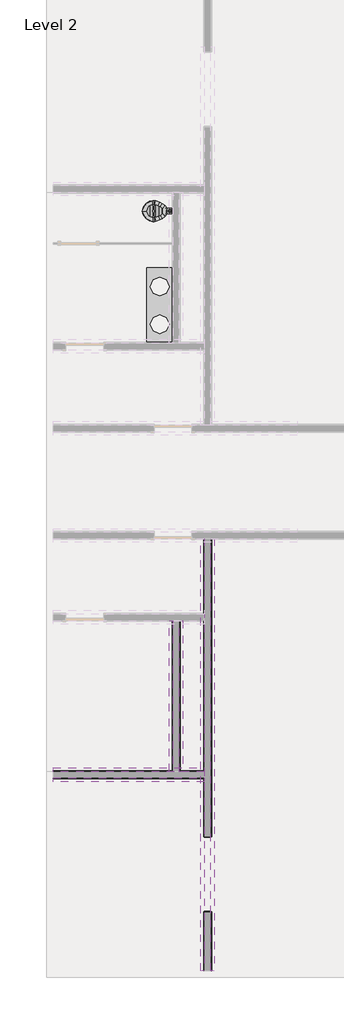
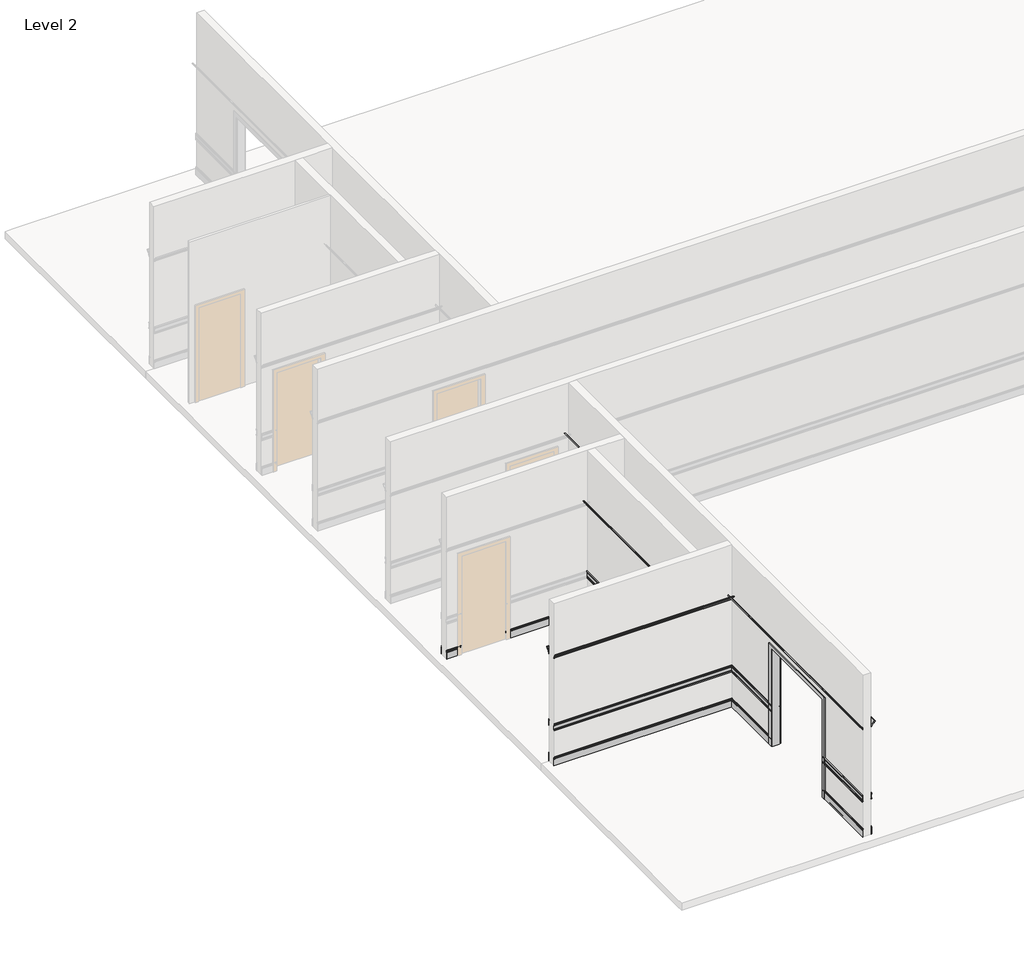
# One storey, part 6 of 14: 21 proxies, 1 flow terminal, 1 furniture element.
"""IFC4 building model written with IfcOpenShell, lengths in millimetres."""

from ifc_helpers import new_model, si_unit, point, frame, frame_2d, origin, place, context, project, spatial, polyline, circle_curve, trimmed, segment, composite_curve, outline, extrude, transform, mapped, element, save
from components import proxy_c8bab04c, water_closet_flush_valve_wall_mounted_public_flushing_c8064052, furniture_25342f59

model = new_model("IFC4")

# Units and contexts
model_context = context("Model", 3, world=origin())
ifc_project = project(units=[si_unit("LENGTHUNIT", "METRE", prefix="MILLI")], contexts=[model_context])

# Site, building, storey
site = spatial("IfcSite", under=ifc_project)
building = spatial("IfcBuilding", under=site)
storey = spatial("IfcBuildingStorey", under=building, Name="Level 2", Elevation=3657.6)

# Proxies
placement = place(None, origin())
element("IfcBuildingElementProxy", 1, Name="Wall Sweeps", at=placement, inside=storey, context=model_context, shape_type="SweptSolid", body=[
    extrude(outline(composite_curve([segment(polyline([(3803.65, -13237.3910278), (3804.1164076, -13239.5853029)]), True, "CONTINUOUS"), segment(trimmed(circle_curve(frame_2d((3804.8928122, -13239.420273)), 0.79375), [point((3804.1164076, -13239.5853029))], [point((3805.438329, -13239.9968583))], True, "CARTESIAN"), True, "CONTINUOUS"), segment(trimmed(circle_curve(frame_2d((3812.047453, -13246.9160279)), 9.5684601), [point((3805.438329, -13239.9968583))], [point((3817.4244174, -13239.0012517))], False, "CARTESIAN"), True, "CONTINUOUS"), segment(polyline([(3817.4244174, -13239.0012517), (3827.5015472, -13245.8425445)]), True, "CONTINUOUS"), segment(trimmed(circle_curve(frame_2d((3831.034375, -13240.5660279)), 6.35), [point((3827.5015472, -13245.8425445))], [point((3836.0425393, -13244.4699733))], True, "CARTESIAN"), True, "CONTINUOUS"), segment(polyline([(3836.0425393, -13244.4699733), (3841.75, -13246.9160279), (3841.75, -13253.2660279), (3797.3, -13253.2660279), (3795.7125, -13251.6785279), (3684.5875, -13251.6785279), (3683.0, -13253.2660279), (3657.6, -13253.2660279), (3657.6, -13237.3910278), (3803.65, -13237.3910278)]), True, "CONTINUOUS")], self_intersect=False)), frame((0.0, -11097.3601681, 0.0), z_axis=(0.0, 1.0, 0.0), x_axis=(0.0, 0.0, 1.0)), (0.0, 0.0, 1.0), 7216.775),
    extrude(outline(composite_curve([segment(polyline([(3803.65, -13237.3910278), (3804.1164076, -13239.5853029)]), True, "CONTINUOUS"), segment(trimmed(circle_curve(frame_2d((3804.8928122, -13239.420273)), 0.79375), [point((3804.1164076, -13239.5853029))], [point((3805.438329, -13239.9968583))], True, "CARTESIAN"), True, "CONTINUOUS"), segment(trimmed(circle_curve(frame_2d((3812.047453, -13246.9160279)), 9.5684601), [point((3805.438329, -13239.9968583))], [point((3817.4244174, -13239.0012517))], False, "CARTESIAN"), True, "CONTINUOUS"), segment(polyline([(3817.4244174, -13239.0012517), (3827.5015472, -13245.8425445)]), True, "CONTINUOUS"), segment(trimmed(circle_curve(frame_2d((3831.034375, -13240.5660279)), 6.35), [point((3827.5015472, -13245.8425445))], [point((3836.0425393, -13244.4699733))], True, "CARTESIAN"), True, "CONTINUOUS"), segment(polyline([(3836.0425393, -13244.4699733), (3841.75, -13246.9160279), (3841.75, -13253.2660279), (3797.3, -13253.2660279), (3795.7125, -13251.6785279), (3684.5875, -13251.6785279), (3683.0, -13253.2660279), (3657.6, -13253.2660279), (3657.6, -13237.3910278), (3803.65, -13237.3910278)]), True, "CONTINUOUS")], self_intersect=False)), frame((0.0, -14345.3851681, 0.0), z_axis=(0.0, 1.0, 0.0), x_axis=(0.0, 0.0, 1.0)), (0.0, 0.0, 1.0), 1419.225),
])
element("IfcBuildingElementProxy", 2, Name="Wall Sweeps", at=placement, inside=storey, context=model_context, shape_type="SweptSolid", body=[
    extrude(outline(composite_curve([segment(polyline([(3803.65, -13424.716028), (3657.6, -13424.716028), (3657.6, -13408.8410279), (3683.0, -13408.8410279), (3684.5875, -13410.4285279), (3795.7125, -13410.4285279), (3797.3, -13408.8410279), (3841.75, -13408.8410279), (3841.75, -13415.1910279), (3836.0425393, -13417.6370825)]), True, "CONTINUOUS"), segment(trimmed(circle_curve(frame_2d((3831.034375, -13421.5410279)), 6.35), [point((3836.0425393, -13417.6370825))], [point((3827.5015472, -13416.2645113))], True, "CARTESIAN"), True, "CONTINUOUS"), segment(polyline([(3827.5015472, -13416.2645113), (3817.4244174, -13423.1058041)]), True, "CONTINUOUS"), segment(trimmed(circle_curve(frame_2d((3812.047453, -13415.1910279)), 9.5684601), [point((3817.4244174, -13423.1058041))], [point((3805.438329, -13422.1101975))], False, "CARTESIAN"), True, "CONTINUOUS"), segment(trimmed(circle_curve(frame_2d((3804.8928122, -13422.6867828)), 0.79375), [point((3805.438329, -13422.1101975))], [point((3804.1164076, -13422.5217529))], True, "CARTESIAN"), True, "CONTINUOUS"), segment(polyline([(3804.1164076, -13422.5217529), (3803.65, -13424.716028)]), True, "CONTINUOUS")], self_intersect=False)), frame((0.0, -14345.3851681, 0.0), z_axis=(0.0, 1.0, 0.0), x_axis=(0.0, 0.0, 1.0)), (0.0, 0.0, 1.0), 1419.225),
    extrude(outline(composite_curve([segment(polyline([(3803.65, -13424.716028), (3657.6, -13424.716028), (3657.6, -13408.8410279), (3683.0, -13408.8410279), (3684.5875, -13410.4285279), (3795.7125, -13410.4285279), (3797.3, -13408.8410279), (3841.75, -13408.8410279), (3841.75, -13415.1910279), (3836.0425393, -13417.6370825)]), True, "CONTINUOUS"), segment(trimmed(circle_curve(frame_2d((3831.034375, -13421.5410279)), 6.35), [point((3836.0425393, -13417.6370825))], [point((3827.5015472, -13416.2645113))], True, "CARTESIAN"), True, "CONTINUOUS"), segment(polyline([(3827.5015472, -13416.2645113), (3817.4244174, -13423.1058041)]), True, "CONTINUOUS"), segment(trimmed(circle_curve(frame_2d((3812.047453, -13415.1910279)), 9.5684601), [point((3817.4244174, -13423.1058041))], [point((3805.438329, -13422.1101975))], False, "CARTESIAN"), True, "CONTINUOUS"), segment(trimmed(circle_curve(frame_2d((3804.8928122, -13422.6867828)), 0.79375), [point((3805.438329, -13422.1101975))], [point((3804.1164076, -13422.5217529))], True, "CARTESIAN"), True, "CONTINUOUS"), segment(polyline([(3804.1164076, -13422.5217529), (3803.65, -13424.716028)]), True, "CONTINUOUS")], self_intersect=False)), frame((0.0, -11097.3601681, 0.0), z_axis=(0.0, 1.0, 0.0), x_axis=(0.0, 0.0, 1.0)), (0.0, 0.0, 1.0), 7216.775),
])
element("IfcBuildingElementProxy", 3, Name="Wall Sweeps", at=placement, inside=storey, context=model_context, shape_type="SweptSolid", body=[
    extrude(outline(composite_curve([segment(polyline([(4438.65, -13251.6785279), (4437.0625, -13253.2660279), (4419.6, -13253.2660279), (4419.6, -13232.6285279), (4438.65, -13232.6285279), (4438.65, -13235.0097779)]), True, "CONTINUOUS"), segment(trimmed(circle_curve(frame_2d((4441.03125, -13240.0298937)), 5.55625), [point((4438.65, -13235.0097779))], [point((4444.9601121, -13236.1010316))], False, "CARTESIAN"), True, "CONTINUOUS"), segment(trimmed(circle_curve(frame_2d((4453.7135672, -13228.3142086)), 11.7156984), [point((4444.9601121, -13236.1010316))], [point((4453.73125, -13240.0298937))], True, "CARTESIAN"), True, "CONTINUOUS"), segment(polyline([(4453.73125, -13240.0298937), (4453.73125, -13242.1535279), (4525.16875, -13242.1535279), (4525.16875, -13240.0298937)]), True, "CONTINUOUS"), segment(trimmed(circle_curve(frame_2d((4525.1864328, -13228.3142086)), 11.7156984), [point((4525.16875, -13240.0298937))], [point((4533.9398879, -13236.1010316))], True, "CARTESIAN"), True, "CONTINUOUS"), segment(trimmed(circle_curve(frame_2d((4537.86875, -13240.0298937)), 5.55625), [point((4533.9398879, -13236.1010316))], [point((4540.25, -13235.0097779))], False, "CARTESIAN"), True, "CONTINUOUS"), segment(polyline([(4540.25, -13235.0097779), (4540.25, -13232.6285279), (4559.3, -13232.6285279), (4559.3, -13253.2660279), (4541.8375, -13253.2660279), (4540.25, -13251.6785279), (4438.65, -13251.6785279)]), True, "CONTINUOUS")], self_intersect=False)), frame((0.0, -11097.3601681, 0.0), z_axis=(0.0, 1.0, 0.0), x_axis=(0.0, 0.0, 1.0)), (0.0, 0.0, 1.0), 7216.775),
    extrude(outline(composite_curve([segment(polyline([(4438.65, -13251.6785279), (4437.0625, -13253.2660279), (4419.6, -13253.2660279), (4419.6, -13232.6285279), (4438.65, -13232.6285279), (4438.65, -13235.0097779)]), True, "CONTINUOUS"), segment(trimmed(circle_curve(frame_2d((4441.03125, -13240.0298937)), 5.55625), [point((4438.65, -13235.0097779))], [point((4444.9601121, -13236.1010316))], False, "CARTESIAN"), True, "CONTINUOUS"), segment(trimmed(circle_curve(frame_2d((4453.7135672, -13228.3142086)), 11.7156984), [point((4444.9601121, -13236.1010316))], [point((4453.73125, -13240.0298937))], True, "CARTESIAN"), True, "CONTINUOUS"), segment(polyline([(4453.73125, -13240.0298937), (4453.73125, -13242.1535279), (4525.16875, -13242.1535279), (4525.16875, -13240.0298937)]), True, "CONTINUOUS"), segment(trimmed(circle_curve(frame_2d((4525.1864328, -13228.3142086)), 11.7156984), [point((4525.16875, -13240.0298937))], [point((4533.9398879, -13236.1010316))], True, "CARTESIAN"), True, "CONTINUOUS"), segment(trimmed(circle_curve(frame_2d((4537.86875, -13240.0298937)), 5.55625), [point((4533.9398879, -13236.1010316))], [point((4540.25, -13235.0097779))], False, "CARTESIAN"), True, "CONTINUOUS"), segment(polyline([(4540.25, -13235.0097779), (4540.25, -13232.6285279), (4559.3, -13232.6285279), (4559.3, -13253.2660279), (4541.8375, -13253.2660279), (4540.25, -13251.6785279), (4438.65, -13251.6785279)]), True, "CONTINUOUS")], self_intersect=False)), frame((0.0, -14345.3851681, 0.0), z_axis=(0.0, 1.0, 0.0), x_axis=(0.0, 0.0, 1.0)), (0.0, 0.0, 1.0), 1419.225),
])
element("IfcBuildingElementProxy", 4, Name="Wall Sweeps", at=placement, inside=storey, context=model_context, shape_type="SweptSolid", body=[
    extrude(outline(composite_curve([segment(polyline([(4438.65, -13410.4285279), (4540.25, -13410.4285279), (4541.8375, -13408.8410279), (4559.3, -13408.8410279), (4559.3, -13429.4785279), (4540.25, -13429.4785279), (4540.25, -13427.0972779)]), True, "CONTINUOUS"), segment(trimmed(circle_curve(frame_2d((4537.86875, -13422.0771621)), 5.55625), [point((4540.25, -13427.0972779))], [point((4533.9398879, -13426.0060242))], False, "CARTESIAN"), True, "CONTINUOUS"), segment(trimmed(circle_curve(frame_2d((4525.1864328, -13433.7928472)), 11.7156984), [point((4533.9398879, -13426.0060242))], [point((4525.16875, -13422.0771621))], True, "CARTESIAN"), True, "CONTINUOUS"), segment(polyline([(4525.16875, -13422.0771621), (4525.16875, -13419.9535279), (4453.73125, -13419.9535279), (4453.73125, -13422.0771621)]), True, "CONTINUOUS"), segment(trimmed(circle_curve(frame_2d((4453.7135672, -13433.7928472)), 11.7156984), [point((4453.73125, -13422.0771621))], [point((4444.9601121, -13426.0060242))], True, "CARTESIAN"), True, "CONTINUOUS"), segment(trimmed(circle_curve(frame_2d((4441.03125, -13422.0771621)), 5.55625), [point((4444.9601121, -13426.0060242))], [point((4438.65, -13427.0972779))], False, "CARTESIAN"), True, "CONTINUOUS"), segment(polyline([(4438.65, -13427.0972779), (4438.65, -13429.4785279), (4419.6, -13429.4785279), (4419.6, -13408.8410279), (4437.0625, -13408.8410279), (4438.65, -13410.4285279)]), True, "CONTINUOUS")], self_intersect=False)), frame((0.0, -14345.3851681, 0.0), z_axis=(0.0, 1.0, 0.0), x_axis=(0.0, 0.0, 1.0)), (0.0, 0.0, 1.0), 1419.225),
    extrude(outline(composite_curve([segment(polyline([(4438.65, -13410.4285279), (4540.25, -13410.4285279), (4541.8375, -13408.8410279), (4559.3, -13408.8410279), (4559.3, -13429.4785279), (4540.25, -13429.4785279), (4540.25, -13427.0972779)]), True, "CONTINUOUS"), segment(trimmed(circle_curve(frame_2d((4537.86875, -13422.0771621)), 5.55625), [point((4540.25, -13427.0972779))], [point((4533.9398879, -13426.0060242))], False, "CARTESIAN"), True, "CONTINUOUS"), segment(trimmed(circle_curve(frame_2d((4525.1864328, -13433.7928472)), 11.7156984), [point((4533.9398879, -13426.0060242))], [point((4525.16875, -13422.0771621))], True, "CARTESIAN"), True, "CONTINUOUS"), segment(polyline([(4525.16875, -13422.0771621), (4525.16875, -13419.9535279), (4453.73125, -13419.9535279), (4453.73125, -13422.0771621)]), True, "CONTINUOUS"), segment(trimmed(circle_curve(frame_2d((4453.7135672, -13433.7928472)), 11.7156984), [point((4453.73125, -13422.0771621))], [point((4444.9601121, -13426.0060242))], True, "CARTESIAN"), True, "CONTINUOUS"), segment(trimmed(circle_curve(frame_2d((4441.03125, -13422.0771621)), 5.55625), [point((4444.9601121, -13426.0060242))], [point((4438.65, -13427.0972779))], False, "CARTESIAN"), True, "CONTINUOUS"), segment(polyline([(4438.65, -13427.0972779), (4438.65, -13429.4785279), (4419.6, -13429.4785279), (4419.6, -13408.8410279), (4437.0625, -13408.8410279), (4438.65, -13410.4285279)]), True, "CONTINUOUS")], self_intersect=False)), frame((0.0, -11097.3601681, 0.0), z_axis=(0.0, 1.0, 0.0), x_axis=(0.0, 0.0, 1.0)), (0.0, 0.0, 1.0), 7216.775),
])
element("IfcBuildingElementProxy", 5, Name="Wall Sweeps", at=placement, inside=storey, context=model_context, shape_type="SweptSolid", body=[
    extrude(outline(composite_curve([segment(polyline([(6095.999973, -13185.0728653), (6009.4919306, -13253.2660279), (5984.875, -13253.2660279), (5984.875, -13246.0831607)]), True, "CONTINUOUS"), segment(trimmed(circle_curve(frame_2d((5984.8589154, -13238.8297413)), 7.2534372), [point((5984.875, -13246.0831607))], [point((5991.3297498, -13242.1070348))], True, "CARTESIAN"), True, "CONTINUOUS"), segment(polyline([(5991.3297498, -13242.1070348), (5995.6157037, -13242.1070348)]), True, "CONTINUOUS"), segment(trimmed(circle_curve(frame_2d((6005.5606001, -13245.4685575)), 10.4976568), [point((5995.6157037, -13242.1070348))], [point((6006.0207604, -13234.980991))], False, "CARTESIAN"), True, "CONTINUOUS"), segment(polyline([(6006.0207604, -13234.980991), (6006.0207604, -13231.3921501), (6011.0554653, -13231.3921501), (6011.0554653, -13228.1647752)]), True, "CONTINUOUS"), segment(trimmed(circle_curve(frame_2d((6007.8346746, -13181.2163732)), 47.0587499), [point((6011.0554653, -13228.1647752))], [point((6049.7194168, -13202.6685134))], True, "CARTESIAN"), True, "CONTINUOUS"), segment(polyline([(6049.7194168, -13202.6685134), (6054.4442936, -13195.4262841)]), True, "CONTINUOUS"), segment(trimmed(circle_curve(frame_2d((6074.6589994, -13203.7344754)), 21.8554426), [point((6054.4442936, -13195.4262841))], [point((6073.7698146, -13181.8971284))], False, "CARTESIAN"), True, "CONTINUOUS"), segment(polyline([(6073.7698146, -13181.8971284), (6079.2202934, -13181.8971284), (6079.2202934, -13179.1285646)]), True, "CONTINUOUS"), segment(trimmed(circle_curve(frame_2d((6087.2314026, -13178.186238)), 8.0663405), [point((6079.2202934, -13179.1285646))], [point((6085.3986257, -13170.3308718))], False, "CARTESIAN"), True, "CONTINUOUS"), segment(trimmed(circle_curve(frame_2d((6081.5641253, -13163.0468868)), 8.2316359), [point((6085.3986257, -13170.3308718))], [point((6088.8481102, -13166.8813873))], True, "CARTESIAN"), True, "CONTINUOUS"), segment(polyline([(6088.8481102, -13166.8813873), (6088.8481102, -13164.3660279), (6095.999973, -13164.3660279), (6095.999973, -13185.0728653)]), True, "CONTINUOUS")], self_intersect=False)), frame((0.0, -14345.3851681, 0.0), z_axis=(0.0, 1.0, 0.0), x_axis=(0.0, 0.0, 1.0)), (0.0, 0.0, 1.0), 10464.8),
])
element("IfcBuildingElementProxy", 6, Name="Wall Sweeps", at=placement, inside=storey, context=model_context, shape_type="SweptSolid", body=[
    extrude(outline(composite_curve([segment(polyline([(6095.999973, -13477.0341905), (6095.999973, -13497.7410279), (6088.8481102, -13497.7410279), (6088.8481102, -13495.2256685)]), True, "CONTINUOUS"), segment(trimmed(circle_curve(frame_2d((6081.5641253, -13499.0601689)), 8.2316359), [point((6088.8481102, -13495.2256685))], [point((6085.3986257, -13491.776184))], True, "CARTESIAN"), True, "CONTINUOUS"), segment(trimmed(circle_curve(frame_2d((6087.2314026, -13483.9208178)), 8.0663405), [point((6085.3986257, -13491.776184))], [point((6079.2202934, -13482.9784911))], False, "CARTESIAN"), True, "CONTINUOUS"), segment(polyline([(6079.2202934, -13482.9784911), (6079.2202934, -13480.2099274), (6073.7698146, -13480.2099274)]), True, "CONTINUOUS"), segment(trimmed(circle_curve(frame_2d((6074.6589994, -13458.3725804)), 21.8554426), [point((6073.7698146, -13480.2099274))], [point((6054.4442936, -13466.6807717))], False, "CARTESIAN"), True, "CONTINUOUS"), segment(polyline([(6054.4442936, -13466.6807717), (6049.7194168, -13459.4385424)]), True, "CONTINUOUS"), segment(trimmed(circle_curve(frame_2d((6007.8346746, -13480.8906826)), 47.0587499), [point((6049.7194168, -13459.4385424))], [point((6011.0554653, -13433.9422806))], True, "CARTESIAN"), True, "CONTINUOUS"), segment(polyline([(6011.0554653, -13433.9422806), (6011.0554653, -13430.7149057), (6006.0207604, -13430.7149057), (6006.0207604, -13427.1260648)]), True, "CONTINUOUS"), segment(trimmed(circle_curve(frame_2d((6005.5606001, -13416.6384983)), 10.4976568), [point((6006.0207604, -13427.1260648))], [point((5995.6157037, -13420.000021))], False, "CARTESIAN"), True, "CONTINUOUS"), segment(polyline([(5995.6157037, -13420.000021), (5991.3297498, -13420.000021)]), True, "CONTINUOUS"), segment(trimmed(circle_curve(frame_2d((5984.8589154, -13423.2773145)), 7.2534372), [point((5991.3297498, -13420.000021))], [point((5984.875, -13416.0238951))], True, "CARTESIAN"), True, "CONTINUOUS"), segment(polyline([(5984.875, -13416.0238951), (5984.875, -13408.8410279), (6009.4919306, -13408.8410279), (6095.999973, -13477.0341905)]), True, "CONTINUOUS")], self_intersect=False)), frame((0.0, -14345.3851681, 0.0), z_axis=(0.0, 1.0, 0.0), x_axis=(0.0, 0.0, 1.0)), (0.0, 0.0, 1.0), 10464.8),
])
element("IfcBuildingElementProxy", 7, Name="Wall Sweeps", at=placement, inside=storey, context=model_context, shape_type="SweptSolid", body=[
    extrude(outline(composite_curve([segment(polyline([(-5880.8351682, 3803.65), (-5878.640893, 3804.1164076)]), True, "CONTINUOUS"), segment(trimmed(circle_curve(frame_2d((-5878.8059229, 3804.8928122)), 0.79375), [point((-5878.640893, 3804.1164076))], [point((-5878.2293377, 3805.438329))], True, "CARTESIAN"), True, "CONTINUOUS"), segment(trimmed(circle_curve(frame_2d((-5871.3101681, 3812.047453)), 9.5684601), [point((-5878.2293377, 3805.438329))], [point((-5879.2249443, 3817.4244174))], False, "CARTESIAN"), True, "CONTINUOUS"), segment(polyline([(-5879.2249443, 3817.4244174), (-5872.3836514, 3827.5015472)]), True, "CONTINUOUS"), segment(trimmed(circle_curve(frame_2d((-5877.6601681, 3831.034375)), 6.35), [point((-5872.3836514, 3827.5015472))], [point((-5873.7562226, 3836.0425393))], True, "CARTESIAN"), True, "CONTINUOUS"), segment(polyline([(-5873.7562226, 3836.0425393), (-5871.3101681, 3841.75), (-5864.9601681, 3841.75), (-5864.9601681, 3797.3), (-5866.5476681, 3795.7125), (-5866.5476681, 3684.5875), (-5864.9601681, 3683.0), (-5864.9601681, 3657.6), (-5880.8351682, 3657.6), (-5880.8351682, 3803.65)]), True, "CONTINUOUS")], self_intersect=False)), frame((-15847.2410279, 0.0, 0.0), z_axis=(1.0, 0.0, 0.0), x_axis=(0.0, 1.0, 0.0)), (0.0, 0.0, 1.0), 2438.4),
    extrude(outline(composite_curve([segment(polyline([(-5880.8351682, 3803.65), (-5878.640893, 3804.1164076)]), True, "CONTINUOUS"), segment(trimmed(circle_curve(frame_2d((-5878.8059229, 3804.8928122)), 0.79375), [point((-5878.640893, 3804.1164076))], [point((-5878.2293377, 3805.438329))], True, "CARTESIAN"), True, "CONTINUOUS"), segment(trimmed(circle_curve(frame_2d((-5871.3101681, 3812.047453)), 9.5684601), [point((-5878.2293377, 3805.438329))], [point((-5879.2249443, 3817.4244174))], False, "CARTESIAN"), True, "CONTINUOUS"), segment(polyline([(-5879.2249443, 3817.4244174), (-5872.3836514, 3827.5015472)]), True, "CONTINUOUS"), segment(trimmed(circle_curve(frame_2d((-5877.6601681, 3831.034375)), 6.35), [point((-5872.3836514, 3827.5015472))], [point((-5873.7562226, 3836.0425393))], True, "CARTESIAN"), True, "CONTINUOUS"), segment(polyline([(-5873.7562226, 3836.0425393), (-5871.3101681, 3841.75), (-5864.9601681, 3841.75), (-5864.9601681, 3797.3), (-5866.5476681, 3795.7125), (-5866.5476681, 3684.5875), (-5864.9601681, 3683.0), (-5864.9601681, 3657.6), (-5880.8351682, 3657.6), (-5880.8351682, 3803.65)]), True, "CONTINUOUS")], self_intersect=False)), frame((-17066.4410279, 0.0, 0.0), z_axis=(1.0, 0.0, 0.0), x_axis=(0.0, 1.0, 0.0)), (0.0, 0.0, 1.0), 304.8),
])
element("IfcBuildingElementProxy", 8, Name="Wall Sweeps", at=placement, inside=storey, context=model_context, shape_type="SweptSolid", body=[
    extrude(outline(composite_curve([segment(polyline([(-5693.510168, 3803.65), (-5693.510168, 3657.6), (-5709.3851681, 3657.6), (-5709.3851681, 3683.0), (-5707.7976681, 3684.5875), (-5707.7976681, 3795.7125), (-5709.3851681, 3797.3), (-5709.3851681, 3841.75), (-5703.0351681, 3841.75), (-5700.5891135, 3836.0425393)]), True, "CONTINUOUS"), segment(trimmed(circle_curve(frame_2d((-5696.6851681, 3831.034375)), 6.35), [point((-5700.5891135, 3836.0425393))], [point((-5701.9616847, 3827.5015472))], True, "CARTESIAN"), True, "CONTINUOUS"), segment(polyline([(-5701.9616847, 3827.5015472), (-5695.1203919, 3817.4244174)]), True, "CONTINUOUS"), segment(trimmed(circle_curve(frame_2d((-5703.0351681, 3812.047453)), 9.5684601), [point((-5695.1203919, 3817.4244174))], [point((-5696.1159985, 3805.438329))], False, "CARTESIAN"), True, "CONTINUOUS"), segment(trimmed(circle_curve(frame_2d((-5695.5394132, 3804.8928122)), 0.79375), [point((-5696.1159985, 3805.438329))], [point((-5695.7044431, 3804.1164076))], True, "CARTESIAN"), True, "CONTINUOUS"), segment(polyline([(-5695.7044431, 3804.1164076), (-5693.510168, 3803.65)]), True, "CONTINUOUS")], self_intersect=False)), frame((-17066.4410279, 0.0, 0.0), z_axis=(1.0, 0.0, 0.0), x_axis=(0.0, 1.0, 0.0)), (0.0, 0.0, 1.0), 304.8),
    extrude(outline(composite_curve([segment(polyline([(-5693.510168, 3803.65), (-5693.510168, 3657.6), (-5709.3851681, 3657.6), (-5709.3851681, 3683.0), (-5707.7976681, 3684.5875), (-5707.7976681, 3795.7125), (-5709.3851681, 3797.3), (-5709.3851681, 3841.75), (-5703.0351681, 3841.75), (-5700.5891135, 3836.0425393)]), True, "CONTINUOUS"), segment(trimmed(circle_curve(frame_2d((-5696.6851681, 3831.034375)), 6.35), [point((-5700.5891135, 3836.0425393))], [point((-5701.9616847, 3827.5015472))], True, "CARTESIAN"), True, "CONTINUOUS"), segment(polyline([(-5701.9616847, 3827.5015472), (-5695.1203919, 3817.4244174)]), True, "CONTINUOUS"), segment(trimmed(circle_curve(frame_2d((-5703.0351681, 3812.047453)), 9.5684601), [point((-5695.1203919, 3817.4244174))], [point((-5696.1159985, 3805.438329))], False, "CARTESIAN"), True, "CONTINUOUS"), segment(trimmed(circle_curve(frame_2d((-5695.5394132, 3804.8928122)), 0.79375), [point((-5696.1159985, 3805.438329))], [point((-5695.7044431, 3804.1164076))], True, "CARTESIAN"), True, "CONTINUOUS"), segment(polyline([(-5695.7044431, 3804.1164076), (-5693.510168, 3803.65)]), True, "CONTINUOUS")], self_intersect=False)), frame((-15847.2410279, 0.0, 0.0), z_axis=(1.0, 0.0, 0.0), x_axis=(0.0, 1.0, 0.0)), (0.0, 0.0, 1.0), 2438.4),
])
element("IfcBuildingElementProxy", 9, Name="Wall Sweeps", at=placement, inside=storey, context=model_context, shape_type="SweptSolid", body=[
    extrude(outline(composite_curve([segment(polyline([(-9694.0101682, 3803.65), (-9691.815893, 3804.1164076)]), True, "CONTINUOUS"), segment(trimmed(circle_curve(frame_2d((-9691.9809229, 3804.8928122)), 0.79375), [point((-9691.815893, 3804.1164076))], [point((-9691.4043377, 3805.438329))], True, "CARTESIAN"), True, "CONTINUOUS"), segment(trimmed(circle_curve(frame_2d((-9684.4851681, 3812.047453)), 9.5684601), [point((-9691.4043377, 3805.438329))], [point((-9692.3999443, 3817.4244174))], False, "CARTESIAN"), True, "CONTINUOUS"), segment(polyline([(-9692.3999443, 3817.4244174), (-9685.5586514, 3827.5015472)]), True, "CONTINUOUS"), segment(trimmed(circle_curve(frame_2d((-9690.8351681, 3831.034375)), 6.35), [point((-9685.5586514, 3827.5015472))], [point((-9686.9312226, 3836.0425393))], True, "CARTESIAN"), True, "CONTINUOUS"), segment(polyline([(-9686.9312226, 3836.0425393), (-9684.4851681, 3841.75), (-9678.1351681, 3841.75), (-9678.1351681, 3797.3), (-9679.7226681, 3795.7125), (-9679.7226681, 3684.5875), (-9678.1351681, 3683.0), (-9678.1351681, 3657.6), (-9694.0101682, 3657.6), (-9694.0101682, 3803.65)]), True, "CONTINUOUS")], self_intersect=False)), frame((-17066.4410279, 0.0, 0.0), z_axis=(1.0, 0.0, 0.0), x_axis=(0.0, 1.0, 0.0)), (0.0, 0.0, 1.0), 3657.6),
])
element("IfcBuildingElementProxy", 10, Name="Wall Sweeps", at=placement, inside=storey, context=model_context, shape_type="SweptSolid", body=[
    extrude(outline(composite_curve([segment(polyline([(-9506.685168, 3803.65), (-9506.685168, 3657.6), (-9522.5601681, 3657.6), (-9522.5601681, 3683.0), (-9520.9726681, 3684.5875), (-9520.9726681, 3795.7125), (-9522.5601681, 3797.3), (-9522.5601681, 3841.75), (-9516.2101681, 3841.75), (-9513.7641135, 3836.0425393)]), True, "CONTINUOUS"), segment(trimmed(circle_curve(frame_2d((-9509.8601681, 3831.034375)), 6.35), [point((-9513.7641135, 3836.0425393))], [point((-9515.1366847, 3827.5015472))], True, "CARTESIAN"), True, "CONTINUOUS"), segment(polyline([(-9515.1366847, 3827.5015472), (-9508.2953919, 3817.4244174)]), True, "CONTINUOUS"), segment(trimmed(circle_curve(frame_2d((-9516.2101681, 3812.047453)), 9.5684601), [point((-9508.2953919, 3817.4244174))], [point((-9509.2909985, 3805.438329))], False, "CARTESIAN"), True, "CONTINUOUS"), segment(trimmed(circle_curve(frame_2d((-9508.7144132, 3804.8928122)), 0.79375), [point((-9509.2909985, 3805.438329))], [point((-9508.8794431, 3804.1164076))], True, "CARTESIAN"), True, "CONTINUOUS"), segment(polyline([(-9508.8794431, 3804.1164076), (-9506.685168, 3803.65)]), True, "CONTINUOUS")], self_intersect=False)), frame((-17066.4410279, 0.0, 0.0), z_axis=(1.0, 0.0, 0.0), x_axis=(0.0, 1.0, 0.0)), (0.0, 0.0, 1.0), 3657.6),
])
element("IfcBuildingElementProxy", 11, Name="Wall Sweeps", at=placement, inside=storey, context=model_context, shape_type="SweptSolid", body=[
    extrude(outline(composite_curve([segment(polyline([(-9679.7226681, 4438.65), (-9678.1351681, 4437.0625), (-9678.1351681, 4419.6), (-9698.7726681, 4419.6), (-9698.7726681, 4438.65), (-9696.3914181, 4438.65)]), True, "CONTINUOUS"), segment(trimmed(circle_curve(frame_2d((-9691.3713023, 4441.03125)), 5.55625), [point((-9696.3914181, 4438.65))], [point((-9695.3001643, 4444.9601121))], False, "CARTESIAN"), True, "CONTINUOUS"), segment(trimmed(circle_curve(frame_2d((-9703.0869874, 4453.7135672)), 11.7156984), [point((-9695.3001643, 4444.9601121))], [point((-9691.3713023, 4453.73125))], True, "CARTESIAN"), True, "CONTINUOUS"), segment(polyline([(-9691.3713023, 4453.73125), (-9689.2476681, 4453.73125), (-9689.2476681, 4525.16875), (-9691.3713023, 4525.16875)]), True, "CONTINUOUS"), segment(trimmed(circle_curve(frame_2d((-9703.0869874, 4525.1864328)), 11.7156984), [point((-9691.3713023, 4525.16875))], [point((-9695.3001643, 4533.9398879))], True, "CARTESIAN"), True, "CONTINUOUS"), segment(trimmed(circle_curve(frame_2d((-9691.3713023, 4537.86875)), 5.55625), [point((-9695.3001643, 4533.9398879))], [point((-9696.3914181, 4540.25))], False, "CARTESIAN"), True, "CONTINUOUS"), segment(polyline([(-9696.3914181, 4540.25), (-9698.7726681, 4540.25), (-9698.7726681, 4559.3), (-9678.1351681, 4559.3), (-9678.1351681, 4541.8375), (-9679.7226681, 4540.25), (-9679.7226681, 4438.65)]), True, "CONTINUOUS")], self_intersect=False)), frame((-17066.4410279, 0.0, 0.0), z_axis=(1.0, 0.0, 0.0), x_axis=(0.0, 1.0, 0.0)), (0.0, 0.0, 1.0), 3657.6),
])
element("IfcBuildingElementProxy", 12, Name="Wall Sweeps", at=placement, inside=storey, context=model_context, shape_type="SweptSolid", body=[
    extrude(outline(composite_curve([segment(polyline([(-9520.9726681, 4438.65), (-9520.9726681, 4540.25), (-9522.5601681, 4541.8375), (-9522.5601681, 4559.3), (-9501.9226681, 4559.3), (-9501.9226681, 4540.25), (-9504.3039181, 4540.25)]), True, "CONTINUOUS"), segment(trimmed(circle_curve(frame_2d((-9509.3240339, 4537.86875)), 5.55625), [point((-9504.3039181, 4540.25))], [point((-9505.3951718, 4533.9398879))], False, "CARTESIAN"), True, "CONTINUOUS"), segment(trimmed(circle_curve(frame_2d((-9497.6083488, 4525.1864328)), 11.7156984), [point((-9505.3951718, 4533.9398879))], [point((-9509.3240339, 4525.16875))], True, "CARTESIAN"), True, "CONTINUOUS"), segment(polyline([(-9509.3240339, 4525.16875), (-9511.4476681, 4525.16875), (-9511.4476681, 4453.73125), (-9509.3240339, 4453.73125)]), True, "CONTINUOUS"), segment(trimmed(circle_curve(frame_2d((-9497.6083488, 4453.7135672)), 11.7156984), [point((-9509.3240339, 4453.73125))], [point((-9505.3951718, 4444.9601121))], True, "CARTESIAN"), True, "CONTINUOUS"), segment(trimmed(circle_curve(frame_2d((-9509.3240339, 4441.03125)), 5.55625), [point((-9505.3951718, 4444.9601121))], [point((-9504.3039181, 4438.65))], False, "CARTESIAN"), True, "CONTINUOUS"), segment(polyline([(-9504.3039181, 4438.65), (-9501.9226681, 4438.65), (-9501.9226681, 4419.6), (-9522.5601681, 4419.6), (-9522.5601681, 4437.0625), (-9520.9726681, 4438.65)]), True, "CONTINUOUS")], self_intersect=False)), frame((-17066.4410279, 0.0, 0.0), z_axis=(1.0, 0.0, 0.0), x_axis=(0.0, 1.0, 0.0)), (0.0, 0.0, 1.0), 3657.6),
])
element("IfcBuildingElementProxy", 13, Name="Wall Sweeps", at=placement, inside=storey, context=model_context, shape_type="SweptSolid", body=[
    extrude(outline(composite_curve([segment(polyline([(-9746.3283306, 6095.999973), (-9678.1351681, 6009.4919306), (-9678.1351681, 5984.875), (-9685.3180353, 5984.875)]), True, "CONTINUOUS"), segment(trimmed(circle_curve(frame_2d((-9692.5714546, 5984.8589154)), 7.2534372), [point((-9685.3180353, 5984.875))], [point((-9689.2941612, 5991.3297498))], True, "CARTESIAN"), True, "CONTINUOUS"), segment(polyline([(-9689.2941612, 5991.3297498), (-9689.2941612, 5995.6157037)]), True, "CONTINUOUS"), segment(trimmed(circle_curve(frame_2d((-9685.9326385, 6005.5606001)), 10.4976568), [point((-9689.2941612, 5995.6157037))], [point((-9696.420205, 6006.0207604))], False, "CARTESIAN"), True, "CONTINUOUS"), segment(polyline([(-9696.420205, 6006.0207604), (-9700.0090459, 6006.0207604), (-9700.0090459, 6011.0554653), (-9703.2364208, 6011.0554653)]), True, "CONTINUOUS"), segment(trimmed(circle_curve(frame_2d((-9750.1848228, 6007.8346746)), 47.0587499), [point((-9703.2364208, 6011.0554653))], [point((-9728.7326826, 6049.7194168))], True, "CARTESIAN"), True, "CONTINUOUS"), segment(polyline([(-9728.7326826, 6049.7194168), (-9735.9749119, 6054.4442936)]), True, "CONTINUOUS"), segment(trimmed(circle_curve(frame_2d((-9727.6667206, 6074.6589994)), 21.8554426), [point((-9735.9749119, 6054.4442936))], [point((-9749.5040675, 6073.7698146))], False, "CARTESIAN"), True, "CONTINUOUS"), segment(polyline([(-9749.5040675, 6073.7698146), (-9749.5040675, 6079.2202934), (-9752.2726313, 6079.2202934)]), True, "CONTINUOUS"), segment(trimmed(circle_curve(frame_2d((-9753.214958, 6087.2314026)), 8.0663405), [point((-9752.2726313, 6079.2202934))], [point((-9761.0703242, 6085.3986257))], False, "CARTESIAN"), True, "CONTINUOUS"), segment(trimmed(circle_curve(frame_2d((-9768.3543091, 6081.5641253)), 8.2316359), [point((-9761.0703242, 6085.3986257))], [point((-9764.5198087, 6088.8481102))], True, "CARTESIAN"), True, "CONTINUOUS"), segment(polyline([(-9764.5198087, 6088.8481102), (-9767.0351681, 6088.8481102), (-9767.0351681, 6095.999973), (-9746.3283306, 6095.999973)]), True, "CONTINUOUS")], self_intersect=False)), frame((-17066.4410279, 0.0, 0.0), z_axis=(1.0, 0.0, 0.0), x_axis=(0.0, 1.0, 0.0)), (0.0, 0.0, 1.0), 3657.6),
])
element("IfcBuildingElementProxy", 14, Name="Wall Sweeps", at=placement, inside=storey, context=model_context, shape_type="SweptSolid", body=[
    extrude(outline(composite_curve([segment(polyline([(-9454.3670055, 6095.999973), (-9433.6601681, 6095.999973), (-9433.6601681, 6088.8481102), (-9436.1755275, 6088.8481102)]), True, "CONTINUOUS"), segment(trimmed(circle_curve(frame_2d((-9432.341027, 6081.5641253)), 8.2316359), [point((-9436.1755275, 6088.8481102))], [point((-9439.6250119, 6085.3986257))], True, "CARTESIAN"), True, "CONTINUOUS"), segment(trimmed(circle_curve(frame_2d((-9447.4803781, 6087.2314026)), 8.0663405), [point((-9439.6250119, 6085.3986257))], [point((-9448.4227048, 6079.2202934))], False, "CARTESIAN"), True, "CONTINUOUS"), segment(polyline([(-9448.4227048, 6079.2202934), (-9451.1912686, 6079.2202934), (-9451.1912686, 6073.7698146)]), True, "CONTINUOUS"), segment(trimmed(circle_curve(frame_2d((-9473.0286155, 6074.6589994)), 21.8554426), [point((-9451.1912686, 6073.7698146))], [point((-9464.7204242, 6054.4442936))], False, "CARTESIAN"), True, "CONTINUOUS"), segment(polyline([(-9464.7204242, 6054.4442936), (-9471.9626535, 6049.7194168)]), True, "CONTINUOUS"), segment(trimmed(circle_curve(frame_2d((-9450.5105134, 6007.8346746)), 47.0587499), [point((-9471.9626535, 6049.7194168))], [point((-9497.4589154, 6011.0554653))], True, "CARTESIAN"), True, "CONTINUOUS"), segment(polyline([(-9497.4589154, 6011.0554653), (-9500.6862903, 6011.0554653), (-9500.6862903, 6006.0207604), (-9504.2751312, 6006.0207604)]), True, "CONTINUOUS"), segment(trimmed(circle_curve(frame_2d((-9514.7626976, 6005.5606001)), 10.4976568), [point((-9504.2751312, 6006.0207604))], [point((-9511.401175, 5995.6157037))], False, "CARTESIAN"), True, "CONTINUOUS"), segment(polyline([(-9511.401175, 5995.6157037), (-9511.401175, 5991.3297498)]), True, "CONTINUOUS"), segment(trimmed(circle_curve(frame_2d((-9508.1238815, 5984.8589154)), 7.2534372), [point((-9511.401175, 5991.3297498))], [point((-9515.3773009, 5984.875))], True, "CARTESIAN"), True, "CONTINUOUS"), segment(polyline([(-9515.3773009, 5984.875), (-9522.5601681, 5984.875), (-9522.5601681, 6009.4919306), (-9454.3670055, 6095.999973)]), True, "CONTINUOUS")], self_intersect=False)), frame((-17066.4410279, 0.0, 0.0), z_axis=(1.0, 0.0, 0.0), x_axis=(0.0, 1.0, 0.0)), (0.0, 0.0, 1.0), 3657.6),
])
element("IfcBuildingElementProxy", 15, Name="Wall Sweeps", at=placement, inside=storey, context=model_context, shape_type="SweptSolid", body=[
    extrude(outline(composite_curve([segment(polyline([(3803.65, -13999.3910278), (3804.1164076, -14001.5853029)]), True, "CONTINUOUS"), segment(trimmed(circle_curve(frame_2d((3804.8928122, -14001.420273)), 0.79375), [point((3804.1164076, -14001.5853029))], [point((3805.438329, -14001.9968583))], True, "CARTESIAN"), True, "CONTINUOUS"), segment(trimmed(circle_curve(frame_2d((3812.047453, -14008.9160279)), 9.5684601), [point((3805.438329, -14001.9968583))], [point((3817.4244174, -14001.0012517))], False, "CARTESIAN"), True, "CONTINUOUS"), segment(polyline([(3817.4244174, -14001.0012517), (3827.5015472, -14007.8425445)]), True, "CONTINUOUS"), segment(trimmed(circle_curve(frame_2d((3831.034375, -14002.5660279)), 6.35), [point((3827.5015472, -14007.8425445))], [point((3836.0425393, -14006.4699733))], True, "CARTESIAN"), True, "CONTINUOUS"), segment(polyline([(3836.0425393, -14006.4699733), (3841.75, -14008.9160279), (3841.75, -14015.2660279), (3797.3, -14015.2660279), (3795.7125, -14013.6785279), (3684.5875, -14013.6785279), (3683.0, -14015.2660279), (3657.6, -14015.2660279), (3657.6, -13999.3910278), (3803.65, -13999.3910278)]), True, "CONTINUOUS")], self_intersect=False)), frame((0.0, -9522.5601681, 0.0), z_axis=(0.0, 1.0, 0.0), x_axis=(0.0, 0.0, 1.0)), (0.0, 0.0, 1.0), 3657.6),
])
element("IfcBuildingElementProxy", 16, Name="Wall Sweeps", at=placement, inside=storey, context=model_context, shape_type="SweptSolid", body=[
    extrude(outline(composite_curve([segment(polyline([(3803.65, -14186.716028), (3657.6, -14186.716028), (3657.6, -14170.8410279), (3683.0, -14170.8410279), (3684.5875, -14172.4285279), (3795.7125, -14172.4285279), (3797.3, -14170.8410279), (3841.75, -14170.8410279), (3841.75, -14177.1910279), (3836.0425393, -14179.6370825)]), True, "CONTINUOUS"), segment(trimmed(circle_curve(frame_2d((3831.034375, -14183.5410279)), 6.35), [point((3836.0425393, -14179.6370825))], [point((3827.5015472, -14178.2645113))], True, "CARTESIAN"), True, "CONTINUOUS"), segment(polyline([(3827.5015472, -14178.2645113), (3817.4244174, -14185.1058041)]), True, "CONTINUOUS"), segment(trimmed(circle_curve(frame_2d((3812.047453, -14177.1910279)), 9.5684601), [point((3817.4244174, -14185.1058041))], [point((3805.438329, -14184.1101975))], False, "CARTESIAN"), True, "CONTINUOUS"), segment(trimmed(circle_curve(frame_2d((3804.8928122, -14184.6867828)), 0.79375), [point((3805.438329, -14184.1101975))], [point((3804.1164076, -14184.5217529))], True, "CARTESIAN"), True, "CONTINUOUS"), segment(polyline([(3804.1164076, -14184.5217529), (3803.65, -14186.716028)]), True, "CONTINUOUS")], self_intersect=False)), frame((0.0, -9522.5601681, 0.0), z_axis=(0.0, 1.0, 0.0), x_axis=(0.0, 0.0, 1.0)), (0.0, 0.0, 1.0), 3657.6),
])
element("IfcBuildingElementProxy", 17, Name="Wall Sweeps", at=placement, inside=storey, context=model_context, shape_type="SweptSolid", body=[
    extrude(outline(composite_curve([segment(polyline([(4438.65, -14013.6785279), (4437.0625, -14015.2660279), (4419.6, -14015.2660279), (4419.6, -13994.6285279), (4438.65, -13994.6285279), (4438.65, -13997.0097779)]), True, "CONTINUOUS"), segment(trimmed(circle_curve(frame_2d((4441.03125, -14002.0298937)), 5.55625), [point((4438.65, -13997.0097779))], [point((4444.9601121, -13998.1010316))], False, "CARTESIAN"), True, "CONTINUOUS"), segment(trimmed(circle_curve(frame_2d((4453.7135672, -13990.3142086)), 11.7156984), [point((4444.9601121, -13998.1010316))], [point((4453.73125, -14002.0298937))], True, "CARTESIAN"), True, "CONTINUOUS"), segment(polyline([(4453.73125, -14002.0298937), (4453.73125, -14004.1535279), (4525.16875, -14004.1535279), (4525.16875, -14002.0298937)]), True, "CONTINUOUS"), segment(trimmed(circle_curve(frame_2d((4525.1864328, -13990.3142086)), 11.7156984), [point((4525.16875, -14002.0298937))], [point((4533.9398879, -13998.1010316))], True, "CARTESIAN"), True, "CONTINUOUS"), segment(trimmed(circle_curve(frame_2d((4537.86875, -14002.0298937)), 5.55625), [point((4533.9398879, -13998.1010316))], [point((4540.25, -13997.0097779))], False, "CARTESIAN"), True, "CONTINUOUS"), segment(polyline([(4540.25, -13997.0097779), (4540.25, -13994.6285279), (4559.3, -13994.6285279), (4559.3, -14015.2660279), (4541.8375, -14015.2660279), (4540.25, -14013.6785279), (4438.65, -14013.6785279)]), True, "CONTINUOUS")], self_intersect=False)), frame((0.0, -9522.5601681, 0.0), z_axis=(0.0, 1.0, 0.0), x_axis=(0.0, 0.0, 1.0)), (0.0, 0.0, 1.0), 3657.6),
])
element("IfcBuildingElementProxy", 18, Name="Wall Sweeps", at=placement, inside=storey, context=model_context, shape_type="SweptSolid", body=[
    extrude(outline(composite_curve([segment(polyline([(4438.65, -14172.4285279), (4540.25, -14172.4285279), (4541.8375, -14170.8410279), (4559.3, -14170.8410279), (4559.3, -14191.4785279), (4540.25, -14191.4785279), (4540.25, -14189.0972779)]), True, "CONTINUOUS"), segment(trimmed(circle_curve(frame_2d((4537.86875, -14184.0771621)), 5.55625), [point((4540.25, -14189.0972779))], [point((4533.9398879, -14188.0060242))], False, "CARTESIAN"), True, "CONTINUOUS"), segment(trimmed(circle_curve(frame_2d((4525.1864328, -14195.7928472)), 11.7156984), [point((4533.9398879, -14188.0060242))], [point((4525.16875, -14184.0771621))], True, "CARTESIAN"), True, "CONTINUOUS"), segment(polyline([(4525.16875, -14184.0771621), (4525.16875, -14181.9535279), (4453.73125, -14181.9535279), (4453.73125, -14184.0771621)]), True, "CONTINUOUS"), segment(trimmed(circle_curve(frame_2d((4453.7135672, -14195.7928472)), 11.7156984), [point((4453.73125, -14184.0771621))], [point((4444.9601121, -14188.0060242))], True, "CARTESIAN"), True, "CONTINUOUS"), segment(trimmed(circle_curve(frame_2d((4441.03125, -14184.0771621)), 5.55625), [point((4444.9601121, -14188.0060242))], [point((4438.65, -14189.0972779))], False, "CARTESIAN"), True, "CONTINUOUS"), segment(polyline([(4438.65, -14189.0972779), (4438.65, -14191.4785279), (4419.6, -14191.4785279), (4419.6, -14170.8410279), (4437.0625, -14170.8410279), (4438.65, -14172.4285279)]), True, "CONTINUOUS")], self_intersect=False)), frame((0.0, -9522.5601681, 0.0), z_axis=(0.0, 1.0, 0.0), x_axis=(0.0, 0.0, 1.0)), (0.0, 0.0, 1.0), 3657.6),
])
element("IfcBuildingElementProxy", 19, Name="Wall Sweeps", at=placement, inside=storey, context=model_context, shape_type="SweptSolid", body=[
    extrude(outline(composite_curve([segment(polyline([(6095.999973, -13947.0728653), (6009.4919306, -14015.2660279), (5984.875, -14015.2660279), (5984.875, -14008.0831607)]), True, "CONTINUOUS"), segment(trimmed(circle_curve(frame_2d((5984.8589154, -14000.8297413)), 7.2534372), [point((5984.875, -14008.0831607))], [point((5991.3297498, -14004.1070348))], True, "CARTESIAN"), True, "CONTINUOUS"), segment(polyline([(5991.3297498, -14004.1070348), (5995.6157037, -14004.1070348)]), True, "CONTINUOUS"), segment(trimmed(circle_curve(frame_2d((6005.5606001, -14007.4685575)), 10.4976568), [point((5995.6157037, -14004.1070348))], [point((6006.0207604, -13996.980991))], False, "CARTESIAN"), True, "CONTINUOUS"), segment(polyline([(6006.0207604, -13996.980991), (6006.0207604, -13993.3921501), (6011.0554653, -13993.3921501), (6011.0554653, -13990.1647752)]), True, "CONTINUOUS"), segment(trimmed(circle_curve(frame_2d((6007.8346746, -13943.2163732)), 47.0587499), [point((6011.0554653, -13990.1647752))], [point((6049.7194168, -13964.6685134))], True, "CARTESIAN"), True, "CONTINUOUS"), segment(polyline([(6049.7194168, -13964.6685134), (6054.4442936, -13957.4262841)]), True, "CONTINUOUS"), segment(trimmed(circle_curve(frame_2d((6074.6589994, -13965.7344754)), 21.8554426), [point((6054.4442936, -13957.4262841))], [point((6073.7698146, -13943.8971284))], False, "CARTESIAN"), True, "CONTINUOUS"), segment(polyline([(6073.7698146, -13943.8971284), (6079.2202934, -13943.8971284), (6079.2202934, -13941.1285646)]), True, "CONTINUOUS"), segment(trimmed(circle_curve(frame_2d((6087.2314026, -13940.186238)), 8.0663405), [point((6079.2202934, -13941.1285646))], [point((6085.3986257, -13932.3308718))], False, "CARTESIAN"), True, "CONTINUOUS"), segment(trimmed(circle_curve(frame_2d((6081.5641253, -13925.0468868)), 8.2316359), [point((6085.3986257, -13932.3308718))], [point((6088.8481102, -13928.8813873))], True, "CARTESIAN"), True, "CONTINUOUS"), segment(polyline([(6088.8481102, -13928.8813873), (6088.8481102, -13926.3660279), (6095.999973, -13926.3660279), (6095.999973, -13947.0728653)]), True, "CONTINUOUS")], self_intersect=False)), frame((0.0, -9522.5601681, 0.0), z_axis=(0.0, 1.0, 0.0), x_axis=(0.0, 0.0, 1.0)), (0.0, 0.0, 1.0), 3657.6),
])
element("IfcBuildingElementProxy", 20, Name="Wall Sweeps", at=placement, inside=storey, context=model_context, shape_type="SweptSolid", body=[
    extrude(outline(composite_curve([segment(polyline([(6095.999973, -14239.0341905), (6095.999973, -14259.7410279), (6088.8481102, -14259.7410279), (6088.8481102, -14257.2256685)]), True, "CONTINUOUS"), segment(trimmed(circle_curve(frame_2d((6081.5641253, -14261.0601689)), 8.2316359), [point((6088.8481102, -14257.2256685))], [point((6085.3986257, -14253.776184))], True, "CARTESIAN"), True, "CONTINUOUS"), segment(trimmed(circle_curve(frame_2d((6087.2314026, -14245.9208178)), 8.0663405), [point((6085.3986257, -14253.776184))], [point((6079.2202934, -14244.9784911))], False, "CARTESIAN"), True, "CONTINUOUS"), segment(polyline([(6079.2202934, -14244.9784911), (6079.2202934, -14242.2099274), (6073.7698146, -14242.2099274)]), True, "CONTINUOUS"), segment(trimmed(circle_curve(frame_2d((6074.6589994, -14220.3725804)), 21.8554426), [point((6073.7698146, -14242.2099274))], [point((6054.4442936, -14228.6807717))], False, "CARTESIAN"), True, "CONTINUOUS"), segment(polyline([(6054.4442936, -14228.6807717), (6049.7194168, -14221.4385424)]), True, "CONTINUOUS"), segment(trimmed(circle_curve(frame_2d((6007.8346746, -14242.8906826)), 47.0587499), [point((6049.7194168, -14221.4385424))], [point((6011.0554653, -14195.9422806))], True, "CARTESIAN"), True, "CONTINUOUS"), segment(polyline([(6011.0554653, -14195.9422806), (6011.0554653, -14192.7149057), (6006.0207604, -14192.7149057), (6006.0207604, -14189.1260648)]), True, "CONTINUOUS"), segment(trimmed(circle_curve(frame_2d((6005.5606001, -14178.6384983)), 10.4976568), [point((6006.0207604, -14189.1260648))], [point((5995.6157037, -14182.000021))], False, "CARTESIAN"), True, "CONTINUOUS"), segment(polyline([(5995.6157037, -14182.000021), (5991.3297498, -14182.000021)]), True, "CONTINUOUS"), segment(trimmed(circle_curve(frame_2d((5984.8589154, -14185.2773145)), 7.2534372), [point((5991.3297498, -14182.000021))], [point((5984.875, -14178.0238951))], True, "CARTESIAN"), True, "CONTINUOUS"), segment(polyline([(5984.875, -14178.0238951), (5984.875, -14170.8410279), (6009.4919306, -14170.8410279), (6095.999973, -14239.0341905)]), True, "CONTINUOUS")], self_intersect=False)), frame((0.0, -9522.5601681, 0.0), z_axis=(0.0, 1.0, 0.0), x_axis=(0.0, 0.0, 1.0)), (0.0, 0.0, 1.0), 3657.6),
])
proxy_shape = proxy_c8bab04c(model_context)
element("IfcBuildingElementProxy", 21, Name="Passage Opening-Cased : 72\" x 84\"", ObjectType="Passage Opening-Cased : 72\" x 84\"", at=placement, inside=storey, context=model_context, shape_type="MappedRepresentation", body=[
    mapped(proxy_shape, transform((-13331.0535279, -12003.5715114, 3657.6), x_axis=(0.0, 1.0, 0.0), y_axis=(-1.0, 0.0, 0.0), z_axis=(0.0, 0.0, 1.0))),
])

# Flow terminal
water_closet_flush_valve_wall_mounted_public_flushing_shape = water_closet_flush_valve_wall_mounted_public_flushing_c8064052(model_context)
element("IfcFlowTerminal", 22, ObjectType="Water Closet - Flush Valve - Wall Mounted : Public - Flushing Greater than 1.6 gpf", at=placement, inside=storey, context=model_context, shape_type="MappedRepresentation", body=[
    mapped(water_closet_flush_valve_wall_mounted_public_flushing_shape, transform((-14170.8410279, 4053.7398319, 4089.4), x_axis=(0.0, -1.0, 0.0), y_axis=(0.0, 0.0, 1.0), z_axis=(-1.0, 0.0, 0.0))),
])

# Furniture
furniture_shape = furniture_25342f59(model_context)
element("IfcFurniture", 23, ObjectType="Vanity Counter Top w 2 Round Sink Holes : 72\"", at=placement, inside=storey, context=model_context, shape_type="MappedRepresentation", body=[
    mapped(furniture_shape, transform((-14170.8410279, 1354.6775368, 3657.6), x_axis=(0.0, -1.0, 0.0), y_axis=(1.0, 0.0, 0.0), z_axis=(0.0, 0.0, 1.0))),
])

save(model, "model.ifc")
